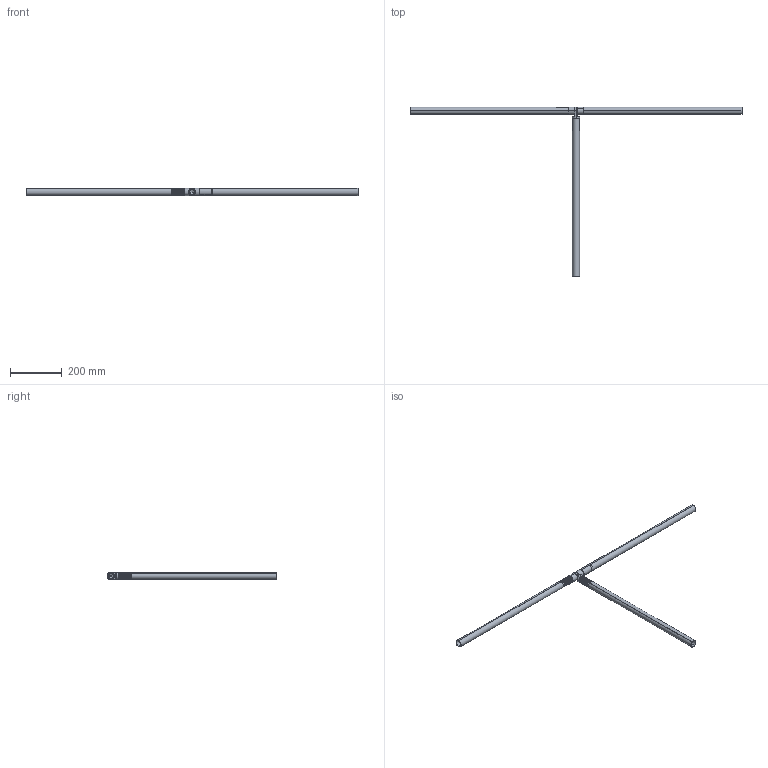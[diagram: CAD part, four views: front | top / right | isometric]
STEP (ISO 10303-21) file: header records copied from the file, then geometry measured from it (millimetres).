
FILE_DESCRIPTION (( 'STEP AP214' ), '1' );
FILE_NAME ('Threaded End Connector to Male Clevis to Threaded End Connector Connections.STEP', '2013-08-19T17:04:16', ( 'ydmin' ), ( 'Microsoft' ), 'SwSTEP 2.0', 'SolidWorks 2013', '' );
FILE_SCHEMA (( 'AUTOMOTIVE_DESIGN' ));
Length unit declared in the file: inch
Products named in the file (5): Threaded End Connector to Male Clevis to Threaded End Connector Connections; 6.000 Inch Tube; DRP-002-0518-00; DRP-002-0509-00_MALE YOKE TUBE INSERT; DRP-002-0513-00_FLAT END WITH THREADED HOLE
Assembly tree (6 placements, depth 2):
  Threaded End Connector to Male Clevis to Threaded End Connector Connections
    DRP-002-0513-00_FLAT END WITH THREADED HOLE
    DRP-002-0509-00_MALE YOKE TUBE INSERT
    DRP-002-0518-00
    6.000 Inch Tube  x3
Bounding box: 1279.14 x 654.77 x 28.57 mm (x, y, z)
Volume: 224222.9 mm3; surface area: 341535.3 mm2
Topology: 8 solids, 8 shells, 708 faces, 1858 edges, 1165 vertices
Faces by surface type: cylinder 328, plane 235, cone 115, torus 18, bspline 8, sphere 4
Entity records: 30977 total; most frequent: CARTESIAN_POINT 10410, DIRECTION 3706, ORIENTED_EDGE 3660, EDGE_CURVE 1830, AXIS2_PLACEMENT_3D 1335, VERTEX_POINT 1149, LINE 1036, VECTOR 1036
